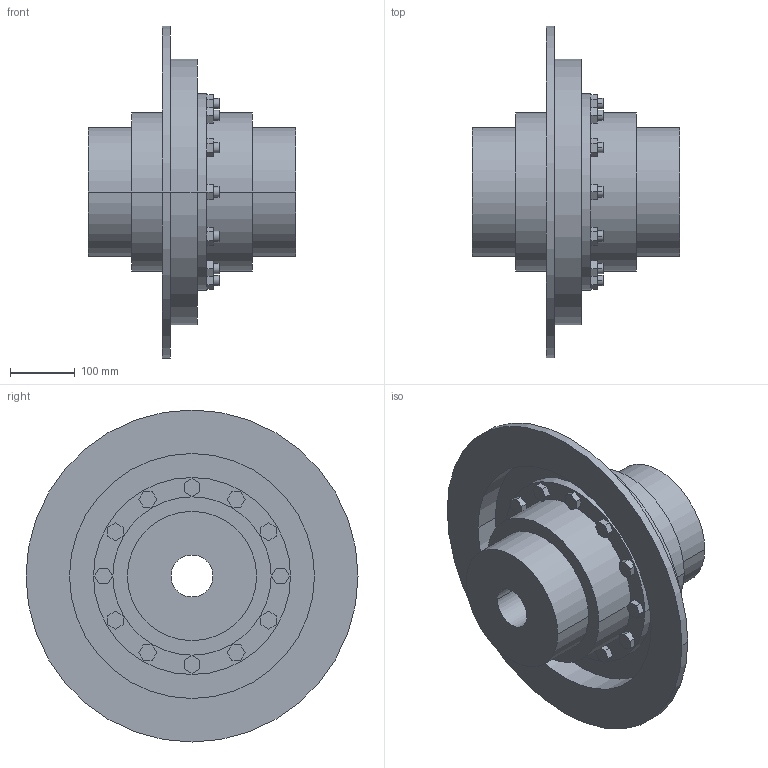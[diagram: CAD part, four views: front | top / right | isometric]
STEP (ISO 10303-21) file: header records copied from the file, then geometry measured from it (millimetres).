
FILE_DESCRIPTION((''),'2;1');
FILE_NAME('A19126500-0_ASM','2018-11-13T',('AB_Roschiwal'),('RENK AG'),'PRO/ENGINEER BY PARAMETRIC TECHNOLOGY CORPORATION, 2015440','PRO/ENGINEER BY PARAMETRIC TECHNOLOGY CORPORATION, 2015440','');
FILE_SCHEMA(('CONFIG_CONTROL_DESIGN'));
Length unit declared in the file: millimetre
Products named in the file (4): LBKT125_GEHAEUSE; LBKT125_NABE; LBKT125_BREMSSCHEIBE; A19126500-0_ASM
Assembly tree (4 placements, depth 2):
  A19126500-0_ASM
    LBKT125_GEHAEUSE
    LBKT125_NABE  x2
    LBKT125_BREMSSCHEIBE
Bounding box: 322 x 514 x 514 mm (x, y, z)
Volume: 14814632.7 mm3; surface area: 1297865.8 mm2
Topology: 4 solids, 4 shells, 294 faces, 708 edges, 472 vertices
Faces by surface type: plane 202, cylinder 92
Entity records: 8412 total; most frequent: DIRECTION 1432, CARTESIAN_POINT 1430, ORIENTED_EDGE 1368, EDGE_CURVE 684, VECTOR 516, LINE 516, AXIS2_PLACEMENT_3D 458, VERTEX_POINT 456
